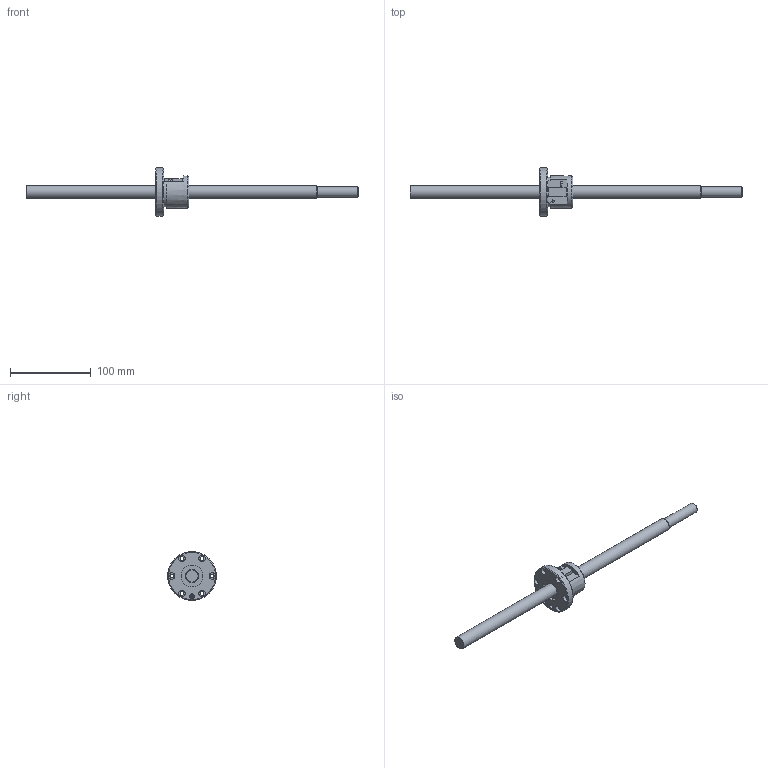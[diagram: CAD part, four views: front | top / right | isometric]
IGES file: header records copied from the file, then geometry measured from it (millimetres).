
Start section: Data from Parasolid IGES Translator 26.0.171, Copyright(c) 2006 Siemens PLM Software. All Rights Reserved.
Global section: file name: BNF1605-2.5RRG1+410LC5A(00).igs; native system: By Siemens PLM Incorporated; preprocessor: XPlus GENERIC/IGES 26.0.171; author: Noname; organization: Noname; date: 20240715.074112; units: millimetre
Bounding box: 410 x 60 x 60 mm (x, y, z)
Surface area: 35465.7 mm2 (no closed solid volume)
Topology: 0 solids, 0 shells, 67 faces, 328 edges, 290 vertices
Faces by surface type: revolution 43, extrusion 24
